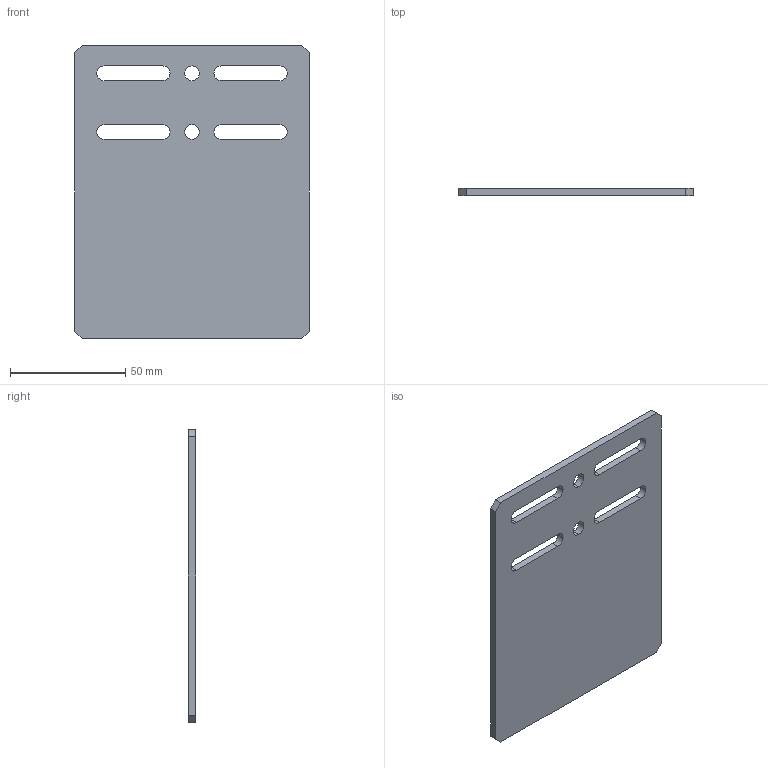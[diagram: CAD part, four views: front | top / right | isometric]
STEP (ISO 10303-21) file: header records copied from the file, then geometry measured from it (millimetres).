
FILE_DESCRIPTION (( 'STEP AP203' ), '1' );
FILE_NAME ('IFI-FRAME-BLANK RevA.STEP', '2012-01-16T22:10:53', ( 'vex_intern' ), ( 'Microsoft' ), 'SwSTEP 2.0', 'SolidWorks 2011', '' );
FILE_SCHEMA (( 'CONFIG_CONTROL_DESIGN' ));
Length unit declared in the file: inch
Products named in the file (1): IFI-FRAME-BLANK RevA
Bounding box: 101.6 x 3.17 x 127 mm (x, y, z)
Volume: 38248.7 mm3; surface area: 26547.9 mm2
Topology: 1 solids, 1 shells, 38 faces, 108 edges, 72 vertices
Faces by surface type: cylinder 20, plane 18
Entity records: 1355 total; most frequent: DIRECTION 226, CARTESIAN_POINT 219, ORIENTED_EDGE 216, EDGE_CURVE 108, AXIS2_PLACEMENT_3D 79, VERTEX_POINT 72, LINE 68, VECTOR 68
